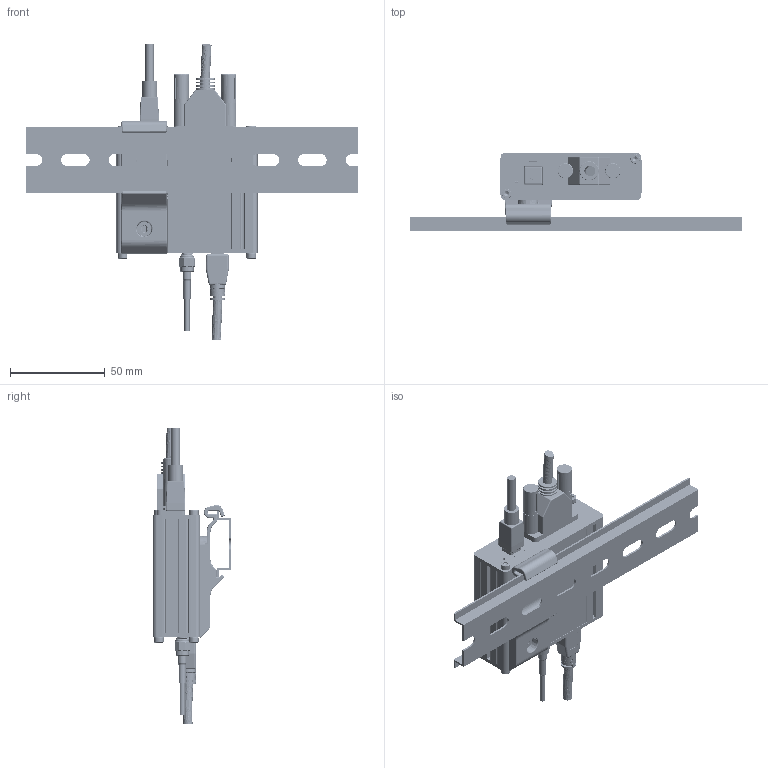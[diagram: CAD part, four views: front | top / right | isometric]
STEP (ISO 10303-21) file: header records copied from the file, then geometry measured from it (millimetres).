
FILE_DESCRIPTION (( 'STEP AP203' ), '1' );
FILE_NAME ('TRM142_spatial_requirements_v1.0.STEP', '2025-09-04T10:47:31', ( '' ), ( '' ), 'SwSTEP 2.0', 'SolidWorks 2024', '' );
FILE_SCHEMA (( 'CONFIG_CONTROL_DESIGN' ));
Products named in the file (14): O-ring(DIN 3771); 0510_TRB142PFBK_01_Engraving; 0499_TRM142AMBK_01_Engraving; CH-CC-SC-1806214-1_3.03; TRM142_v1.0_20250327_10_31; Molex_cable_jungtis_43025-0400; TRM142_spatial_requirements_v1.0; VAIZL200; RS232; 0512_TB14XDHM0BCX_01; PR2US08M; v6_DIN_Rail_begelio_fiksatorius; SMA_atsakomoji; 0504_TRM142PRBK_01_Engraving
Assembly tree (16 placements, depth 3):
  TRM142_spatial_requirements_v1.0
    0499_TRM142AMBK_01_Engraving
      0512_TB14XDHM0BCX_01
      O-ring(DIN 3771)
      CH-CC-SC-1806214-1_3.03  x4
      0504_TRM142PRBK_01_Engraving
      TRM142_v1.0_20250327_10_31
      0510_TRB142PFBK_01_Engraving
    Molex_cable_jungtis_43025-0400
    PR2US08M
    RS232
    SMA_atsakomoji
    VAIZL200
    v6_DIN_Rail_begelio_fiksatorius
Bounding box: 175 x 41.5 x 156.51 mm (x, y, z)
Volume: 66606.3 mm3; surface area: 94492.2 mm2
Topology: 16 solids, 545 shells, 14787 faces, 38924 edges, 25420 vertices
Faces by surface type: plane 10889, cylinder 2391, bspline 953, sphere 196, torus 186, cone 172
Entity records: 484711 total; most frequent: CARTESIAN_POINT 133125, ORIENTED_EDGE 76807, DIRECTION 64520, EDGE_CURVE 38612, LINE 28212, VECTOR 28212, VERTEX_POINT 25278, AXIS2_PLACEMENT_3D 18154
